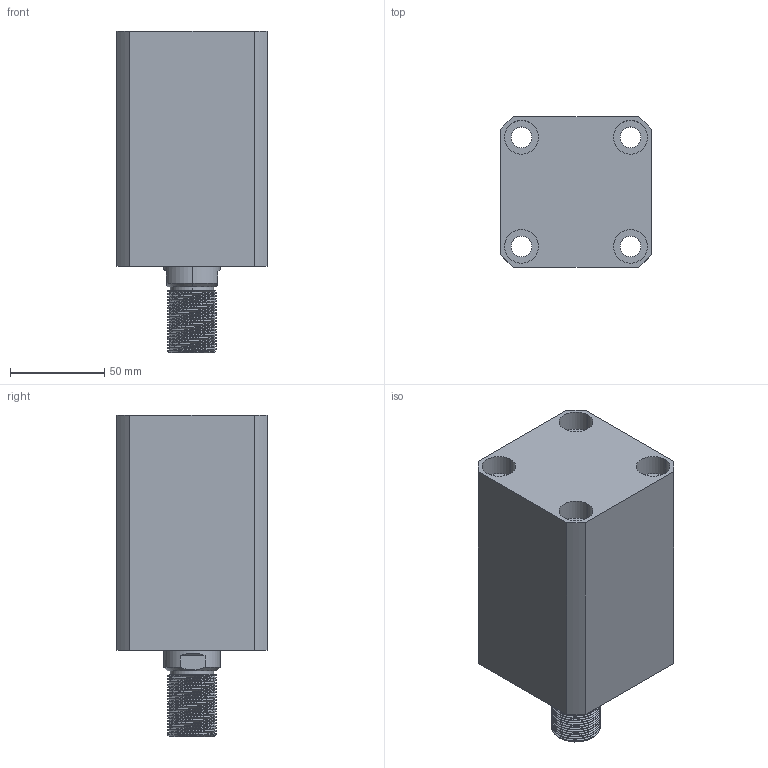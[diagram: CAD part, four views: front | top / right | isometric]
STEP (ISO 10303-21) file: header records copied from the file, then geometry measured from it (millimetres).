
FILE_DESCRIPTION (( 'STEP AP203' ), '1' );
FILE_NAME ('CHTB-SDMA50-65W.STEP', '2018-05-19T02:30:43', ( '' ), ( '' ), 'SwSTEP 2.0', 'SolidWorks 2015', '' );
FILE_SCHEMA (( 'CONFIG_CONTROL_DESIGN' ));
Length unit declared in the file: millimetre
Products named in the file (5): 活塞杆SDMA50-65W; M6; CHTB-SDMA50-65W; CHTM-SDMA50QG; 掛极SDMA50-65W
Assembly tree (5 placements, depth 2):
  CHTB-SDMA50-65W
    掛极SDMA50-65W
    活塞杆SDMA50-65W
    CHTM-SDMA50QG
    M6  x2
Bounding box: 80 x 80 x 171 mm (x, y, z)
Volume: 665078.3 mm3; surface area: 127896.2 mm2
Topology: 5 solids, 5 shells, 312 faces, 831 edges, 553 vertices
Faces by surface type: cylinder 179, plane 60, cone 29, bspline 28, torus 16
Entity records: 17949 total; most frequent: CARTESIAN_POINT 11067, ORIENTED_EDGE 1468, DIRECTION 1169, EDGE_CURVE 734, VERTEX_POINT 492, AXIS2_PLACEMENT_3D 472, EDGE_LOOP 320, ADVANCED_FACE 277
